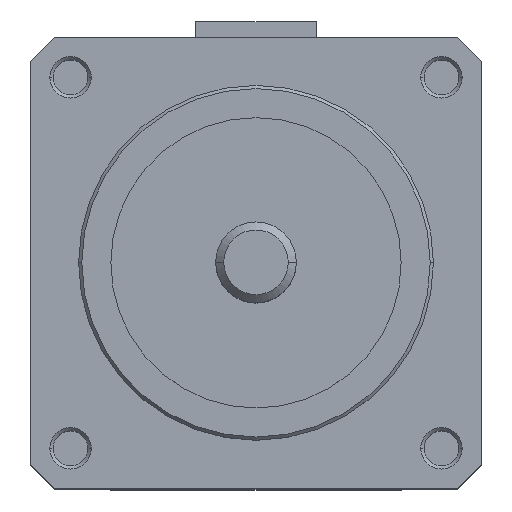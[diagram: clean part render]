
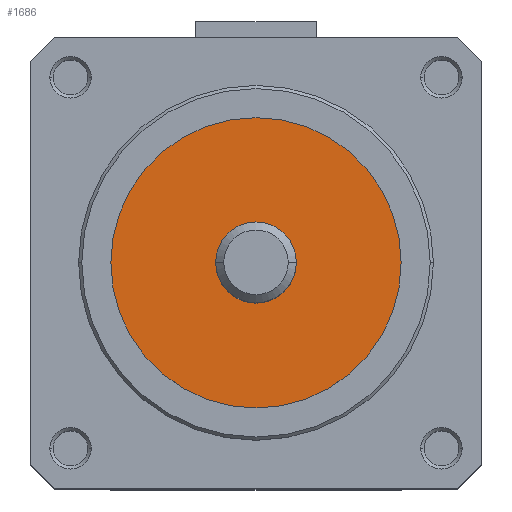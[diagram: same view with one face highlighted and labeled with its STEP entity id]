
A CAD part, top view. The second image highlights one B-rep face of the part: STEP entity #1686.
In plain terms, the highlighted planar face has unit normal (0, 0, 1).
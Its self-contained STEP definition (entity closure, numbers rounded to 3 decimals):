
#361 = CARTESIAN_POINT ( 'NONE',  ( -2.5, 0., 5.65 ) ) ;
#367 = CARTESIAN_POINT ( 'NONE',  ( 2.5, 0., 5.65 ) ) ;
#570 = DIRECTION ( 'NONE',  ( 1., 0., 0. ) ) ;
#571 = DIRECTION ( 'NONE',  ( 0., 0., 1. ) ) ;
#572 = PLANE ( 'NONE',  #3615 ) ;
#583 = CARTESIAN_POINT ( 'NONE',  ( 0., 0., 5.65 ) ) ;
#924 = FACE_OUTER_BOUND ( 'NONE', #7305, .T. ) ;
#926 = FACE_BOUND ( 'NONE', #7292, .T. ) ;
#1173 = CIRCLE ( 'NONE', #6643, 9. ) ;
#1188 = CIRCLE ( 'NONE', #6642, 2.5 ) ;
#1686 = ADVANCED_FACE ( 'NONE', ( #924, #926 ), #572, .T. ) ;
#1827 = VERTEX_POINT ( 'NONE', #367 ) ;
#1832 = VERTEX_POINT ( 'NONE', #361 ) ;
#2425 = CARTESIAN_POINT ( 'NONE',  ( 0., 0., 5.65 ) ) ;
#2426 = DIRECTION ( 'NONE',  ( 0., 0., 1. ) ) ;
#2427 = DIRECTION ( 'NONE',  ( 1., 0., 0. ) ) ;
#2446 = CARTESIAN_POINT ( 'NONE',  ( 0., 0., 5.65 ) ) ;
#2447 = DIRECTION ( 'NONE',  ( 0., 0., 1. ) ) ;
#2448 = DIRECTION ( 'NONE',  ( 1., 0., 0. ) ) ;
#2934 = CARTESIAN_POINT ( 'NONE',  ( -9., 0., 5.65 ) ) ;
#2943 = CARTESIAN_POINT ( 'NONE',  ( 9., 0., 5.65 ) ) ;
#3415 = EDGE_CURVE ( 'NONE', #6231, #6254, #1173, .T. ) ;
#3424 = EDGE_CURVE ( 'NONE', #1827, #1832, #1188, .T. ) ;
#3615 = AXIS2_PLACEMENT_3D ( 'NONE', #583, #571, #570 ) ;
#4512 = CIRCLE ( 'NONE', #6932, 2.5 ) ;
#4513 = CIRCLE ( 'NONE', #6933, 9. ) ;
#5412 = CARTESIAN_POINT ( 'NONE',  ( 0., 0., 5.65 ) ) ;
#5427 = CARTESIAN_POINT ( 'NONE',  ( 0., 0., 5.65 ) ) ;
#5431 = DIRECTION ( 'NONE',  ( 0., 0., 1. ) ) ;
#5432 = DIRECTION ( 'NONE',  ( 1., 0., 0. ) ) ;
#5434 = DIRECTION ( 'NONE',  ( 0., 0., 1. ) ) ;
#5435 = DIRECTION ( 'NONE',  ( 1., 0., 0. ) ) ;
#6231 = VERTEX_POINT ( 'NONE', #2934 ) ;
#6254 = VERTEX_POINT ( 'NONE', #2943 ) ;
#6642 = AXIS2_PLACEMENT_3D ( 'NONE', #2446, #2447, #2448 ) ;
#6643 = AXIS2_PLACEMENT_3D ( 'NONE', #2425, #2426, #2427 ) ;
#6932 = AXIS2_PLACEMENT_3D ( 'NONE', #5412, #5431, #5432 ) ;
#6933 = AXIS2_PLACEMENT_3D ( 'NONE', #5427, #5434, #5435 ) ;
#7292 = EDGE_LOOP ( 'NONE', ( #7672, #7673 ) ) ;
#7305 = EDGE_LOOP ( 'NONE', ( #7670, #7671 ) ) ;
#7670 = ORIENTED_EDGE ( 'NONE', *, *, #8100, .T. ) ;
#7671 = ORIENTED_EDGE ( 'NONE', *, *, #3415, .T. ) ;
#7672 = ORIENTED_EDGE ( 'NONE', *, *, #8099, .F. ) ;
#7673 = ORIENTED_EDGE ( 'NONE', *, *, #3424, .F. ) ;
#8099 = EDGE_CURVE ( 'NONE', #1832, #1827, #4512, .T. ) ;
#8100 = EDGE_CURVE ( 'NONE', #6254, #6231, #4513, .T. ) ;
